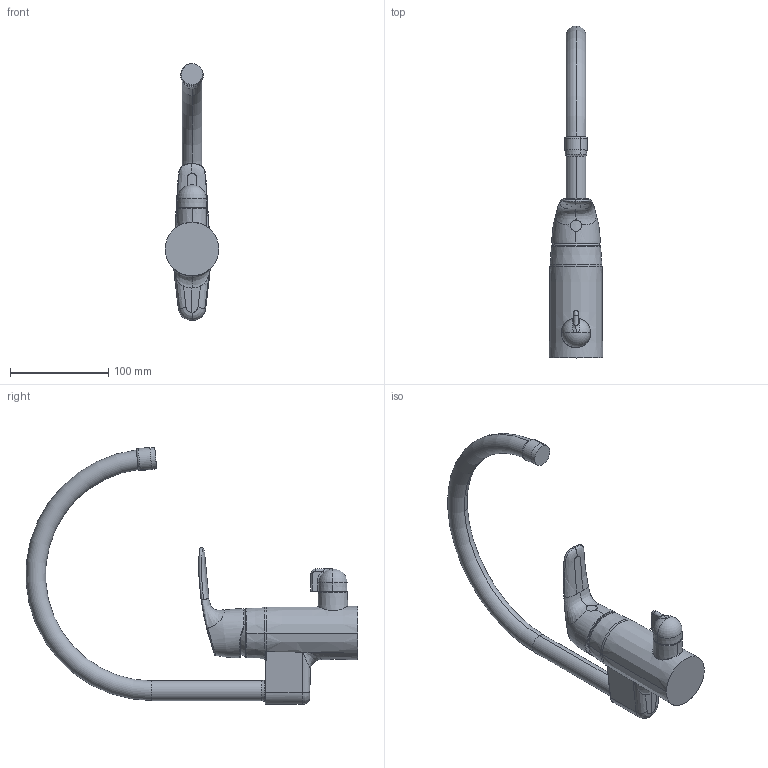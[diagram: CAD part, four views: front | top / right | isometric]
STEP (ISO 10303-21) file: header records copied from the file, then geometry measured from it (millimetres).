
FILE_DESCRIPTION (( 'STEP AP203' ), '1' );
FILE_NAME ('1039F-104(2021)+1039F-105(2021).STEP', '2021-10-05T12:48:07', ( '' ), ( '' ), 'SwSTEP 2.0', 'SolidWorks 2016', '' );
FILE_SCHEMA (( 'CONFIG_CONTROL_DESIGN' ));
Length unit declared in the file: millimetre
Products named in the file (1): 1039F-104(2021)+1039F-105(2021)
Bounding box: 54.6 x 337.71 x 261.47 mm (x, y, z)
Volume: 580450.3 mm3; surface area: 74516.8 mm2
Topology: 1 solids, 1 shells, 127 faces, 314 edges, 190 vertices
Faces by surface type: bspline 57, cone 20, cylinder 19, torus 18, plane 13
Entity records: 19181 total; most frequent: CARTESIAN_POINT 16659, ORIENTED_EDGE 616, DIRECTION 345, EDGE_CURVE 308, VERTEX_POINT 190, B_SPLINE_CURVE_WITH_KNOTS 178, AXIS2_PLACEMENT_3D 156, EDGE_LOOP 134
